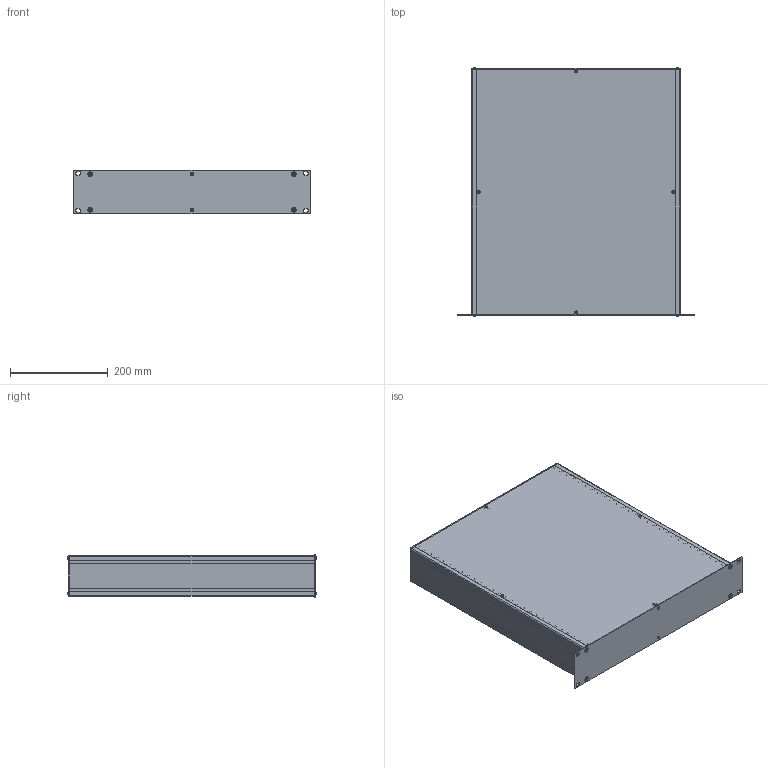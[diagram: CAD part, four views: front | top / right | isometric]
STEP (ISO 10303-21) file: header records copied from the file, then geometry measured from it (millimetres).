
FILE_DESCRIPTION(/* description */ (''),/* implementation_level */ '2;1');
FILE_NAME(/* name */ '//diskstation/Kunden/Gehäuse/Gehäuse/2HE/step/Zoll 2HE Rack Gehäuse Tiefe-500.step',/* time_stamp */ '2022-02-17T15:35:03+01:00',/* author */ (''),/* organization */ (''),/* preprocessor_version */ 'ST-DEVELOPER v18.1',/* originating_system */ 'Autodesk Translation Framework v10.10.0.1391',/* authorisation */ '');
FILE_SCHEMA (('AUTOMOTIVE_DESIGN { 1 0 10303 214 3 1 1 }'));
Length unit declared in the file: millimetre
Products named in the file (28): 2HE Gehäuse mit parametern; Gehäuse; Gehäuseprofil 1 unten links; Gehäuseprofil 2 oben rechts; Gehäuseprofil 1 unten rechts; Gehäuseprofil 2 oben links; Rückplatte; Deckel; Seitenteil links; Seitenteil rechts; Bodenplatte; Montageklotz Front/Deckel; Montageklotz Front/Boden; Montageklotz Rück/Deckel; Montageklotz Rück/Boden; Gewindestreifen; Frontplatte; Schrauben M5; Schraube Front; Schraube Front (1); Schraube Front (2); Schraube Front (3); Schraube Rück (1); Schraube Rück; Schraube Rück (2); Schraube Rück (3); Schrauben M3; HI_Senkschraube DIN 965 A v2 M3x5 24677.030.005(High)
Assembly tree (37 placements, depth 3):
  2HE Gehäuse mit parametern
    Gehäuse
      Gehäuseprofil 1 unten links
      Gehäuseprofil 2 oben rechts
      Gehäuseprofil 1 unten rechts
      Gehäuseprofil 2 oben links
      Rückplatte
      Deckel
      Seitenteil links
      Seitenteil rechts
      Bodenplatte
      Montageklotz Front/Deckel
      Montageklotz Front/Boden
      Montageklotz Rück/Deckel
      Montageklotz Rück/Boden
      Gewindestreifen  x2
    Frontplatte
    Schrauben M5
      Schraube Front
      Schraube Front (1)
      Schraube Front (2)
      Schraube Front (3)
      Schraube Rück (1)
      Schraube Rück
      Schraube Rück (2)
      Schraube Rück (3)
    Schrauben M3
      HI_Senkschraube DIN 965 A v2 M3x5 24677.030.005(High)  x10
Bounding box: 483 x 508.2 x 88.1 mm (x, y, z)
Volume: 1467436.8 mm3; surface area: 1317589 mm2
Topology: 34 solids, 34 shells, 944 faces, 2346 edges, 1470 vertices
Faces by surface type: cylinder 422, plane 342, cone 164, torus 8, bspline 8
Full cylindrical faces by diameter (mm): 2.529 x180, 3 x10, 3.2 x10, 4.234 x40, 5 x8, 5.2 x8, 5.3 x4, 5.6 x10, 9.5 x8
Entity records: 18600 total; most frequent: CARTESIAN_POINT 3348, DIRECTION 3135, ORIENTED_EDGE 2760, EDGE_CURVE 1380, AXIS2_PLACEMENT_3D 1195, VERTEX_POINT 868, EDGE_LOOP 866, LINE 745
